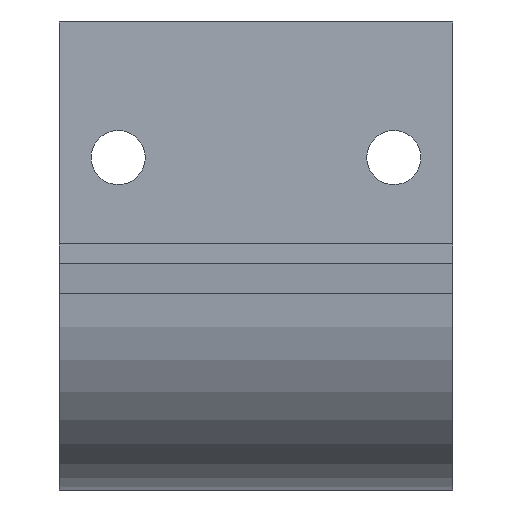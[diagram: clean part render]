
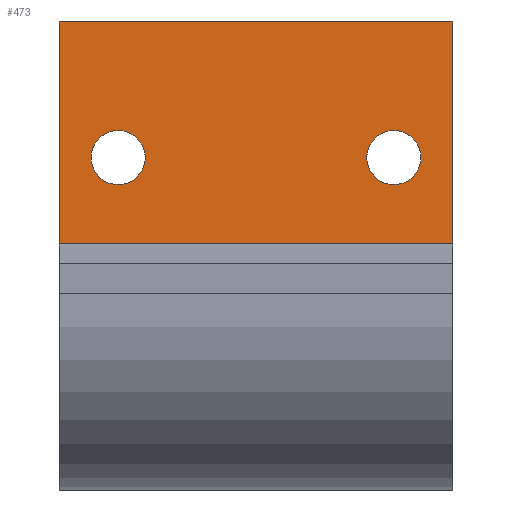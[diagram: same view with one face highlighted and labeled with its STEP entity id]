
A CAD part, front view. The second image highlights one B-rep face of the part: STEP entity #473.
In plain terms, the highlighted planar face has unit normal (0, -1, 0).
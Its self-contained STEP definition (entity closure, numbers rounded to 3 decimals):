
#27=FACE_BOUND('',#93,.T.);
#28=FACE_BOUND('',#94,.T.);
#36=CIRCLE('',#511,2.75);
#38=CIRCLE('',#515,2.75);
#61=FACE_OUTER_BOUND('',#92,.T.);
#92=EDGE_LOOP('',(#388,#389,#390,#391));
#93=EDGE_LOOP('',(#392));
#94=EDGE_LOOP('',(#393));
#139=LINE('',#754,#190);
#144=LINE('',#768,#195);
#145=LINE('',#770,#196);
#146=LINE('',#771,#197);
#190=VECTOR('',#619,10.);
#195=VECTOR('',#632,10.);
#196=VECTOR('',#633,10.);
#197=VECTOR('',#634,10.);
#226=VERTEX_POINT('',#722);
#228=VERTEX_POINT('',#730);
#237=VERTEX_POINT('',#752);
#238=VERTEX_POINT('',#753);
#243=VERTEX_POINT('',#767);
#244=VERTEX_POINT('',#769);
#278=EDGE_CURVE('',#226,#226,#36,.T.);
#282=EDGE_CURVE('',#228,#228,#38,.T.);
#291=EDGE_CURVE('',#237,#238,#139,.T.);
#298=EDGE_CURVE('',#238,#243,#144,.T.);
#299=EDGE_CURVE('',#244,#243,#145,.T.);
#300=EDGE_CURVE('',#237,#244,#146,.T.);
#388=ORIENTED_EDGE('',*,*,#291,.T.);
#389=ORIENTED_EDGE('',*,*,#298,.T.);
#390=ORIENTED_EDGE('',*,*,#299,.F.);
#391=ORIENTED_EDGE('',*,*,#300,.F.);
#392=ORIENTED_EDGE('',*,*,#278,.T.);
#393=ORIENTED_EDGE('',*,*,#282,.T.);
#449=PLANE('',#522);
#473=ADVANCED_FACE('',(#61,#27,#28),#449,.F.);
#511=AXIS2_PLACEMENT_3D('',#724,#593,#594);
#515=AXIS2_PLACEMENT_3D('',#732,#603,#604);
#522=AXIS2_PLACEMENT_3D('',#766,#630,#631);
#593=DIRECTION('center_axis',(0.,1.,0.));
#594=DIRECTION('ref_axis',(0.,0.,1.));
#603=DIRECTION('center_axis',(0.,1.,0.));
#604=DIRECTION('ref_axis',(0.,0.,1.));
#619=DIRECTION('',(1.,0.,0.));
#630=DIRECTION('center_axis',(0.,1.,0.));
#631=DIRECTION('ref_axis',(0.,0.,1.));
#632=DIRECTION('',(0.,0.,1.));
#633=DIRECTION('',(1.,0.,0.));
#634=DIRECTION('',(0.,0.,1.));
#722=CARTESIAN_POINT('',(34.,32.,11.024));
#724=CARTESIAN_POINT('Origin',(34.,32.,13.774));
#730=CARTESIAN_POINT('',(6.,32.,11.024));
#732=CARTESIAN_POINT('Origin',(6.,32.,13.774));
#752=CARTESIAN_POINT('',(0.,32.,5.));
#753=CARTESIAN_POINT('',(40.,32.,5.));
#754=CARTESIAN_POINT('',(0.,32.,5.));
#766=CARTESIAN_POINT('Origin',(0.,32.,0.));
#767=CARTESIAN_POINT('',(40.,32.,27.548));
#768=CARTESIAN_POINT('',(40.,32.,0.));
#769=CARTESIAN_POINT('',(0.,32.,27.548));
#770=CARTESIAN_POINT('',(0.,32.,27.548));
#771=CARTESIAN_POINT('',(0.,32.,0.));
